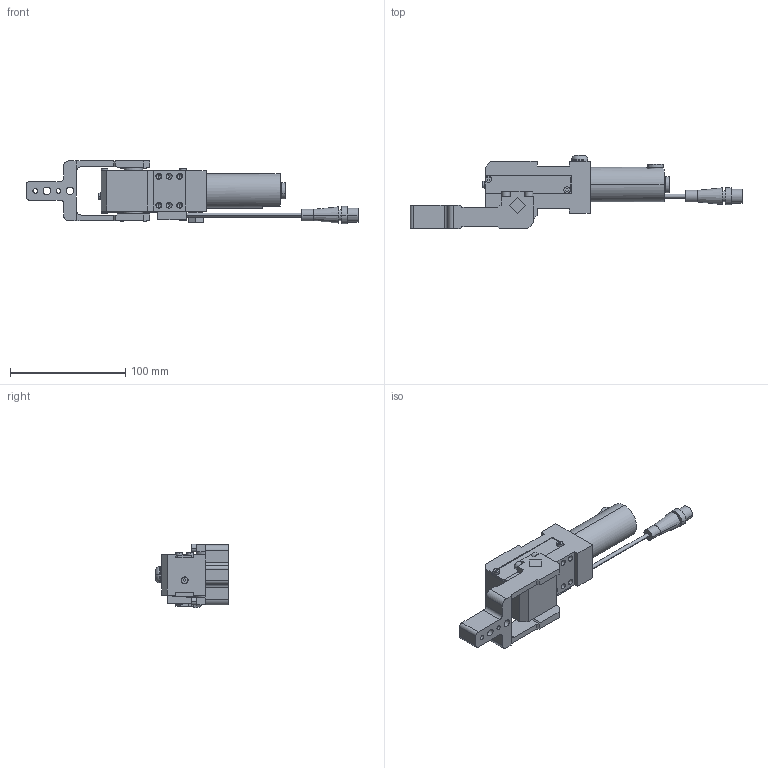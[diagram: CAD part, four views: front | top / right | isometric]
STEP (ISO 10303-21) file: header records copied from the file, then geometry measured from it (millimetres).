
FILE_DESCRIPTION (( 'STEP AP214' ), '1' );
FILE_NAME ('c25oci_.STEP', '2014-03-17T08:50:18', ( 'vep' ), ( 'TOSHIBA' ), 'SwSTEP 2.0', 'SolidWorks 2013', '' );
FILE_SCHEMA (( 'AUTOMOTIVE_DESIGN' ));
Length unit declared in the file: millimetre
Products named in the file (9): vite_m8x8_iso7380; leva_centrale_cpr25; nipplo_cpr25; finecorsa_cpr25; gruppo_montante_cpr25; riparo_G20; tappo G1_8 din908; rondella_di_tenuta_G1_8; c25oci_
Assembly tree (10 placements, depth 2):
  c25oci_
    gruppo_montante_cpr25
    nipplo_cpr25
    vite_m8x8_iso7380
    rondella_di_tenuta_G1_8  x2
    tappo G1_8 din908  x2
    riparo_G20
    finecorsa_cpr25
    leva_centrale_cpr25
Bounding box: 287.5 x 63.2 x 55 mm (x, y, z)
Volume: 239154.5 mm3; surface area: 61431.1 mm2
Topology: 10 solids, 10 shells, 496 faces, 1180 edges, 750 vertices
Faces by surface type: plane 286, cylinder 174, cone 34, torus 2
Entity records: 14873 total; most frequent: DIRECTION 2440, CARTESIAN_POINT 2329, ORIENTED_EDGE 2212, EDGE_CURVE 1106, AXIS2_PLACEMENT_3D 849, LINE 742, VECTOR 742, VERTEX_POINT 722
